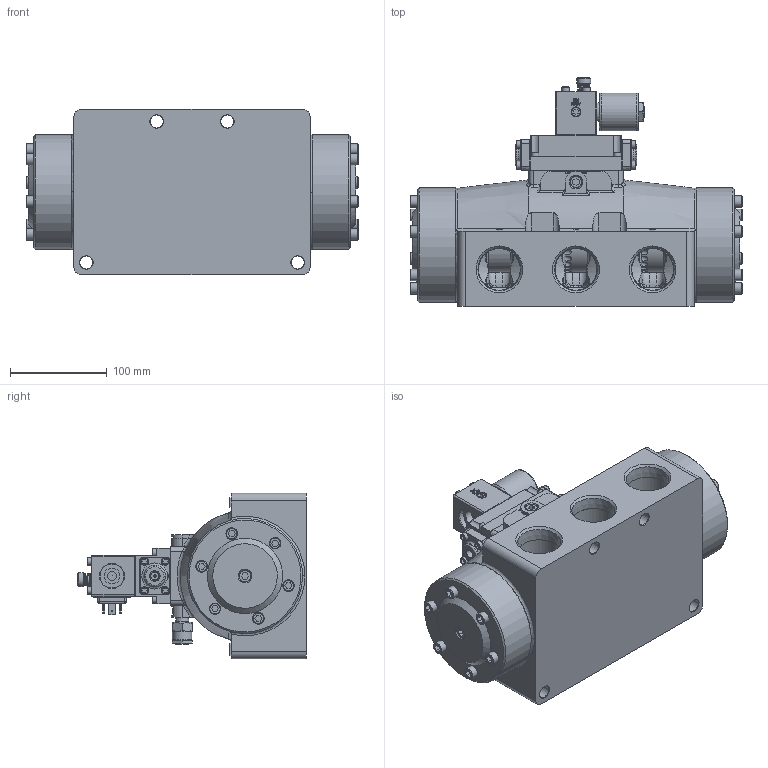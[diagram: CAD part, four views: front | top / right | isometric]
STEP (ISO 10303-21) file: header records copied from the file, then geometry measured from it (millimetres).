
FILE_DESCRIPTION(/* description */ (''),/* implementation_level */ '2;1');
FILE_NAME(/* name */ 'D:\Website Files\stp\Valves\Classic\SR\SR12EDO.stp',/* time_stamp */ '2016-01-08T09:02:45-05:00',/* author */ ('RMcKenna'),/* organization */ (''),/* preprocessor_version */ 'ST-DEVELOPER v15.6',/* originating_system */ 'Autodesk Inventor 2015',/* authorisation */ '');
FILE_SCHEMA (('AUTOMOTIVE_DESIGN { 1 0 10303 214 3 1 1 }'));
Products named in the file (1): Part9
Bounding box: 343.84 x 236.84 x 171.45 mm (x, y, z)
Volume: 4525935.6 mm3; surface area: 568426 mm2
Topology: 3 solids, 66 shells, 2503 faces, 6020 edges, 3863 vertices
Faces by surface type: plane 1160, cylinder 508, cone 388, bspline 239, torus 200, sphere 8
Full cylindrical faces by diameter (mm): 1.016 x1, 1.6 x3, 2.261 x4, 2.35 x1, 2.362 x2, 2.381 x2, 2.54 x1, 2.778 x2, 3.048 x3, 3.175 x11, 3.302 x1, 3.683 x16, 3.912 x1, 3.962 x1, 4.366 x10, 4.369 x3, 4.762 x2, 4.763 x5, 4.826 x20, 5.156 x8, 5.159 x9, 5.537 x5, 5.944 x2, 6.35 x1, 6.401 x12, 6.629 x2, 6.731 x2, 7.925 x2, 7.938 x42, 7.95 x1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
Entity records: 80056 total; most frequent: CARTESIAN_POINT 25269, DIRECTION 10332, ORIENTED_EDGE 10136, EDGE_CURVE 5068, AXIS2_PLACEMENT_3D 3976, VERTEX_POINT 3581, EDGE_LOOP 3491, FACE_OUTER_BOUND 2503
